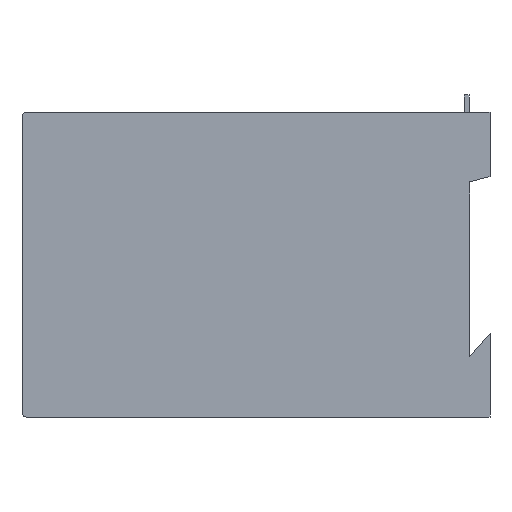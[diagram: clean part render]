
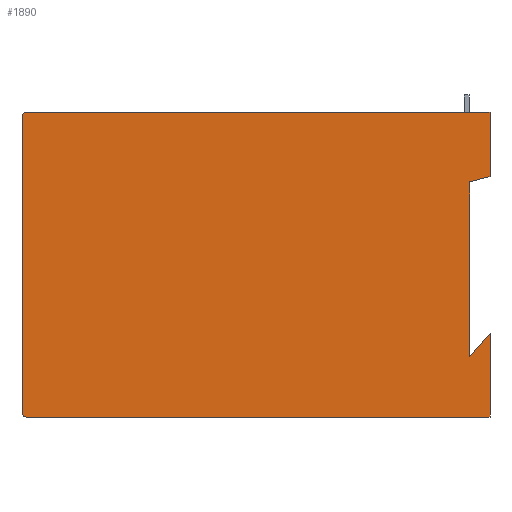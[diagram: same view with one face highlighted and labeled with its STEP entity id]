
A CAD part, left-side view. The second image highlights one B-rep face of the part: STEP entity #1890.
In plain terms, the highlighted planar face has unit normal (-1, 0, 0).
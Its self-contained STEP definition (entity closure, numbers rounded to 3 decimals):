
#29=CIRCLE($,#1995,1.);
#41=CIRCLE($,#2013,1.);
#78=FACE_OUTER_BOUND($,#176,.T.);
#176=EDGE_LOOP($,(#1383,#1384,#1385,#1386,#1387,#1388,#1389,#1390,#1391,
#1392));
#266=LINE($,#2629,#518);
#310=LINE($,#2718,#562);
#354=LINE($,#2852,#606);
#358=LINE($,#2860,#610);
#362=LINE($,#2867,#614);
#363=LINE($,#2869,#615);
#364=LINE($,#2871,#616);
#365=LINE($,#2872,#617);
#518=VECTOR($,#2113,108.);
#562=VECTOR($,#2159,69.);
#606=VECTOR($,#2287,15.);
#610=VECTOR($,#2293,4.912);
#614=VECTOR($,#2299,19.5);
#615=VECTOR($,#2302,108.);
#616=VECTOR($,#2303,7.267);
#617=VECTOR($,#2304,40.75);
#770=VERTEX_POINT($,#2626);
#771=VERTEX_POINT($,#2628);
#814=VERTEX_POINT($,#2715);
#815=VERTEX_POINT($,#2717);
#855=VERTEX_POINT($,#2830);
#862=VERTEX_POINT($,#2849);
#863=VERTEX_POINT($,#2851);
#866=VERTEX_POINT($,#2859);
#868=VERTEX_POINT($,#2865);
#869=VERTEX_POINT($,#2870);
#956=EDGE_CURVE($,#771,#770,#266,.T.);
#1000=EDGE_CURVE($,#814,#815,#310,.T.);
#1043=EDGE_CURVE($,#814,#771,#29,.T.);
#1060=EDGE_CURVE($,#855,#815,#41,.T.);
#1070=EDGE_CURVE($,#863,#862,#354,.T.);
#1074=EDGE_CURVE($,#863,#866,#358,.T.);
#1078=EDGE_CURVE($,#770,#868,#362,.T.);
#1079=EDGE_CURVE($,#855,#862,#363,.T.);
#1080=EDGE_CURVE($,#869,#868,#364,.T.);
#1081=EDGE_CURVE($,#866,#869,#365,.T.);
#1383=ORIENTED_EDGE($,*,*,#1079,.F.);
#1384=ORIENTED_EDGE($,*,*,#1060,.T.);
#1385=ORIENTED_EDGE($,*,*,#1000,.F.);
#1386=ORIENTED_EDGE($,*,*,#1043,.T.);
#1387=ORIENTED_EDGE($,*,*,#956,.T.);
#1388=ORIENTED_EDGE($,*,*,#1078,.T.);
#1389=ORIENTED_EDGE($,*,*,#1080,.F.);
#1390=ORIENTED_EDGE($,*,*,#1081,.F.);
#1391=ORIENTED_EDGE($,*,*,#1074,.F.);
#1392=ORIENTED_EDGE($,*,*,#1070,.T.);
#1793=PLANE($,#2019);
#1890=ADVANCED_FACE($,(#78),#1793,.F.);
#1995=AXIS2_PLACEMENT_3D($,#2796,#2229,#2230);
#2013=AXIS2_PLACEMENT_3D($,#2831,#2270,#2271);
#2019=AXIS2_PLACEMENT_3D($,#2868,#2300,#2301);
#2113=DIRECTION($,(0.,-1.,0.));
#2159=DIRECTION($,(0.,0.,1.));
#2229=DIRECTION('center_axis',(-1.,0.,0.));
#2230=DIRECTION('ref_axis',(0.,0.,-1.));
#2270=DIRECTION('center_axis',(-1.,0.,0.));
#2271=DIRECTION('ref_axis',(0.,0.,-1.));
#2287=DIRECTION($,(0.,0.,1.));
#2293=DIRECTION($,(0.,0.967,-0.254));
#2299=DIRECTION($,(0.,0.,1.));
#2300=DIRECTION('center_axis',(1.,0.,0.));
#2301=DIRECTION('ref_axis',(0.,0.,-1.));
#2302=DIRECTION($,(0.,-1.,0.));
#2303=DIRECTION($,(0.,-0.654,0.757));
#2304=DIRECTION($,(0.,0.,-1.));
#2626=CARTESIAN_POINT('',(-31.,0.,-35.5));
#2628=CARTESIAN_POINT('',(-31.,108.,-35.5));
#2629=CARTESIAN_POINT($,(-31.,109.,-35.5));
#2715=CARTESIAN_POINT('',(-31.,109.,-34.5));
#2717=CARTESIAN_POINT('',(-31.,109.,34.5));
#2718=CARTESIAN_POINT($,(-31.,109.,-35.5));
#2796=CARTESIAN_POINT('Origin',(-31.,108.,-34.5));
#2830=CARTESIAN_POINT('',(-31.,108.,35.5));
#2831=CARTESIAN_POINT('Origin',(-31.,108.,34.5));
#2849=CARTESIAN_POINT('',(-31.,0.,35.5));
#2851=CARTESIAN_POINT('',(-31.,0.,20.5));
#2852=CARTESIAN_POINT($,(-31.,0.,-35.5));
#2859=CARTESIAN_POINT('',(-31.,4.75,19.25));
#2860=CARTESIAN_POINT($,(-31.,4.75,19.25));
#2865=CARTESIAN_POINT('',(-31.,0.,-16.));
#2867=CARTESIAN_POINT($,(-31.,0.,-35.5));
#2868=CARTESIAN_POINT('Origin',(-31.,109.,-35.5));
#2869=CARTESIAN_POINT($,(-31.,109.,35.5));
#2870=CARTESIAN_POINT('',(-31.,4.75,-21.5));
#2871=CARTESIAN_POINT($,(-31.,0.,-16.));
#2872=CARTESIAN_POINT($,(-31.,4.75,-21.5));
